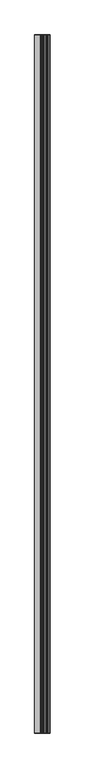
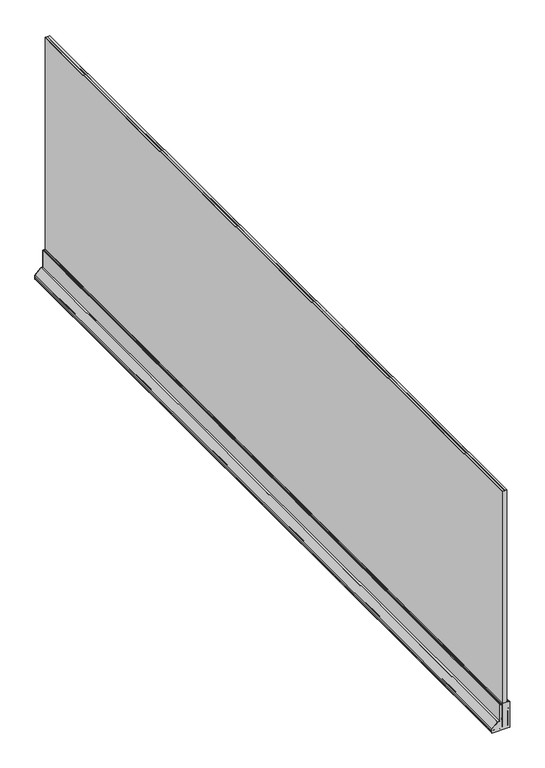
"""IFC4 building model written with IfcOpenShell, lengths in millimetres: railing geometry, Glass Rail EXL-12481 h=1100mm."""

import ifcopenshell
import ifcopenshell.guid

model = None  # the IFC model being written
_history = None  # IfcOwnerHistory: only IFC2X3 demands one
_inside = {}  # id of a spatial element -> (the spatial element, [elements in it])
_under = {}  # id of a project, library or spatial element -> (it, [spatial elements below it])
_declared = {}  # id of a project -> (the project, [libraries it declares])
_typed = {}  # id of a type object -> (the type object, [elements of that type])
_made_of = {}  # id of a material, layer set ... -> (it, [elements and type objects made of it])


def new_model(schema):
    """Start an empty IFC model of exactly this schema.

    Asked for "IFC4X3", IfcOpenShell would pick the latest addendum, in which some entities
    have other attributes; the version numbers below select the first issue.
    IFC2X3 requires an IfcOwnerHistory on every rooted entity: one is made here for all.
    """
    global model, _history
    if schema == "IFC4X3":
        model = ifcopenshell.file(schema_version=(4, 3, 0, 0))
    else:
        model = ifcopenshell.file(schema=schema)
    _inside.clear()
    _under.clear()
    _declared.clear()
    _typed.clear()
    _made_of.clear()
    _history = None
    if model.schema == "IFC2X3":
        org = make("IfcOrganization", Name="unknown")
        user = make(
            "IfcPersonAndOrganization",
            ThePerson=make("IfcPerson", FamilyName="unknown"),
            TheOrganization=org,
        )
        app = make(
            "IfcApplication",
            ApplicationDeveloper=org,
            Version="unknown",
            ApplicationFullName="unknown",
            ApplicationIdentifier="unknown",
        )
        _history = make(
            "IfcOwnerHistory",
            OwningUser=user,
            OwningApplication=app,
            ChangeAction="ADDED",
            CreationDate=0,
        )
    return model


def make(cls, **values):
    """One entity of the class cls with the attributes given. An attribute that is None is left unset."""
    return model.create_entity(
        cls, **{name: value for name, value in values.items() if value is not None}
    )


def rooted(cls, **values):
    """An entity with a GlobalId (a new one), such as an element, a storey or a relation."""
    return make(cls, GlobalId=ifcopenshell.guid.new(), OwnerHistory=_history, **values)


def si_unit(unit_type, name, prefix=None):
    """IfcSIUnit, for example si_unit("LENGTHUNIT", "METRE", prefix="MILLI")."""
    return make("IfcSIUnit", UnitType=unit_type, Prefix=prefix, Name=name)


def assignment(units):
    """IfcUnitAssignment: the units of a project."""
    return None if units is None else make("IfcUnitAssignment", Units=units)


def point(xyz):
    """IfcCartesianPoint."""
    return None if xyz is None else make("IfcCartesianPoint", Coordinates=xyz)


def direction(xyz):
    """IfcDirection."""
    return None if xyz is None else make("IfcDirection", DirectionRatios=xyz)


def frame(location, z_axis=None, x_axis=None):
    """IfcAxis2Placement3D, a coordinate frame: its origin and axes. An axis left out is left unset."""
    return make(
        "IfcAxis2Placement3D",
        Location=point(location),
        Axis=direction(z_axis),
        RefDirection=direction(x_axis),
    )


def frame_2d(location, x_axis=None):
    """IfcAxis2Placement2D, a coordinate frame in the plane: its origin and x axis."""
    return make(
        "IfcAxis2Placement2D", Location=point(location), RefDirection=direction(x_axis)
    )


def origin():
    """The frame at (0, 0, 0) with its axes left unset."""
    return frame((0.0, 0.0, 0.0))


def place(relative_to, where):
    """IfcLocalPlacement: puts the frame where relative to a parent placement (None: the world)."""
    return make(
        "IfcLocalPlacement", PlacementRelTo=relative_to, RelativePlacement=where
    )


def context(
    kind, dimensions, precision=None, world=None, true_north=None, identifier=None
):
    """IfcGeometricRepresentationContext, for example the 3D "Model" context."""
    return make(
        "IfcGeometricRepresentationContext",
        ContextIdentifier=identifier,
        ContextType=kind,
        CoordinateSpaceDimension=dimensions,
        Precision=precision,
        WorldCoordinateSystem=world,
        TrueNorth=true_north,
    )


def project(units=None, contexts=None):
    """IfcProject with its units and contexts."""
    return rooted(
        "IfcProject",
        Name="project",
        RepresentationContexts=contexts,
        UnitsInContext=assignment(units),
    )


def spatial(cls, under=None, at=None, **own):
    """A site, building, storey or space (cls), placed at a placement, below another one or the project."""
    s = rooted(cls, ObjectPlacement=at, **own)
    if under is not None:
        _under.setdefault(under.id(), (under, []))[1].append(s)
    return s


def polyline(points):
    """IfcPolyline through the points."""
    return make("IfcPolyline", Points=[point(p) for p in points])


def circle_curve(where, radius):
    """IfcCircle in the frame where."""
    return make("IfcCircle", Position=where, Radius=radius)


def trimmed(basis, trim1, trim2, sense, master):
    """IfcTrimmedCurve: the piece of a basis curve between two trims."""
    return make(
        "IfcTrimmedCurve",
        BasisCurve=basis,
        Trim1=trim1,
        Trim2=trim2,
        SenseAgreement=sense,
        MasterRepresentation=master,
    )


def segment(curve, same_sense, transition):
    """IfcCompositeCurveSegment."""
    return make(
        "IfcCompositeCurveSegment",
        Transition=transition,
        SameSense=same_sense,
        ParentCurve=curve,
    )


def composite_curve(segments, self_intersect=None):
    """IfcCompositeCurve: segments joined end to end."""
    return make("IfcCompositeCurve", Segments=segments, SelfIntersect=self_intersect)


def outline(outer, holes=None, kind="AREA"):
    """IfcArbitraryClosedProfileDef: a profile drawn as a closed curve; with holes, ...WithVoids."""
    if holes is None:
        return make("IfcArbitraryClosedProfileDef", ProfileType=kind, OuterCurve=outer)
    return make(
        "IfcArbitraryProfileDefWithVoids",
        ProfileType=kind,
        OuterCurve=outer,
        InnerCurves=holes,
    )


def extrude(swept, where, along, depth):
    """IfcExtrudedAreaSolid: the profile swept, set in the frame where, extruded along a direction by depth."""
    return make(
        "IfcExtrudedAreaSolid",
        SweptArea=swept,
        Position=where,
        ExtrudedDirection=direction(along),
        Depth=depth,
    )


def shape(context_of_items, identifier, shape_type, items):
    """IfcShapeRepresentation: the items that make up one representation, for example the "Body"."""
    return make(
        "IfcShapeRepresentation",
        ContextOfItems=context_of_items,
        RepresentationIdentifier=identifier,
        RepresentationType=shape_type,
        Items=items,
    )


def source(mapping_origin, context_of_items, identifier, shape_type, items):
    """IfcRepresentationMap: a shape defined once, which mapped items show again and again."""
    return make(
        "IfcRepresentationMap",
        MappingOrigin=mapping_origin,
        MappedRepresentation=shape(context_of_items, identifier, shape_type, items),
    )


def transform(
    local_origin,
    x_axis=None,
    y_axis=None,
    z_axis=None,
    scale=None,
    scale2=None,
    scale3=None,
    uniform=True,
):
    """IfcCartesianTransformationOperator3D, or its non-uniform kind. x_axis, y_axis, z_axis: its Axis1, 2, 3."""
    if uniform:
        return make(
            "IfcCartesianTransformationOperator3D",
            Axis1=direction(x_axis),
            Axis2=direction(y_axis),
            LocalOrigin=point(local_origin),
            Scale=scale,
            Axis3=direction(z_axis),
        )
    return make(
        "IfcCartesianTransformationOperator3DnonUniform",
        Axis1=direction(x_axis),
        Axis2=direction(y_axis),
        LocalOrigin=point(local_origin),
        Scale=scale,
        Axis3=direction(z_axis),
        Scale2=scale2,
        Scale3=scale3,
    )


def mapped(mapping_source, mapping_target):
    """IfcMappedItem: shows the shape of a source again, moved by a transform."""
    return make(
        "IfcMappedItem", MappingSource=mapping_source, MappingTarget=mapping_target
    )


def made_of(thing, what):
    """Note that an element or type object is made of a material, layer set ...; save() writes the relation."""
    if what is not None:
        _made_of.setdefault(what.id(), (what, []))[1].append(thing)
    return thing


def element(
    cls,
    number,
    at=None,
    inside=None,
    cuts=None,
    type_object=None,
    material=None,
    context=None,
    identifier="Body",
    shape_type=None,
    held_by="IfcProductDefinitionShape",
    body=None,
    shapes=None,
    **own,
):
    """One element of the class cls, such as IfcWall. Its Tag is "e" and its number.

    at: its placement. inside: the storey or other place that contains it. cuts: it is an
    opening in that element (IfcRelVoidsElement). A single representation is given by context,
    identifier, shape_type and body (its items); several are given by shapes. held_by: the class
    of the entity that holds the representations. save() writes the other relations.
    """
    e = rooted(cls, Tag="e%d" % number, ObjectPlacement=at, **own)
    if body is not None:
        shapes = [shape(context, identifier, shape_type, body)]
    if shapes is not None:
        e.Representation = make(held_by, Representations=shapes)
    if inside is not None:
        _inside.setdefault(inside.id(), (inside, []))[1].append(e)
    if cuts is not None:
        rooted(
            "IfcRelVoidsElement", RelatingBuildingElement=cuts, RelatedOpeningElement=e
        )
    if type_object is not None:
        _typed.setdefault(type_object.id(), (type_object, []))[1].append(e)
    return made_of(e, material)


def aggregate(whole, parts):
    """IfcRelAggregates: a whole, such as a stair, and the parts it consists of."""
    return rooted("IfcRelAggregates", RelatingObject=whole, RelatedObjects=parts)


def save(model, path):
    """Write the relations noted so far, then the file.

    IfcRelAggregates (storeys below a building ...), IfcRelContainedInSpatialStructure (elements
    in a storey), IfcRelDefinesByType, IfcRelAssociatesMaterial and IfcRelDeclares: one each for
    every whole, place, type object, material and project.
    """
    for whole, parts in _under.values():
        aggregate(whole, parts)
    for where, things in _inside.values():
        rooted(
            "IfcRelContainedInSpatialStructure",
            RelatedElements=things,
            RelatingStructure=where,
        )
    for kind, things in _typed.values():
        rooted("IfcRelDefinesByType", RelatedObjects=things, RelatingType=kind)
    for what, things in _made_of.values():
        rooted("IfcRelAssociatesMaterial", RelatedObjects=things, RelatingMaterial=what)
    for by, libraries in _declared.values():
        rooted("IfcRelDeclares", RelatingContext=by, RelatedDefinitions=libraries)
    model.write(path)


def railing_5e96fa47(model_context):
    return source(origin(), model_context, "Body", "SweptSolid", [
        extrude(outline(composite_curve([segment(trimmed(circle_curve(frame_2d((4319.5, 26234.4337784)), 0.5), [point((4320.0, 26234.4337784))], [point((4319.0, 26234.4337784))], False, "CARTESIAN"), True, "CONTINUOUS"), segment(polyline([(4319.0, 26234.4337784), (4300.0, 26234.4337784), (4299.4226497, 26235.4337784), (4276.5, 26231.6337784), (4211.0, 26231.6337784)]), True, "CONTINUOUS"), segment(trimmed(circle_curve(frame_2d((4211.0, 26230.6337784)), 1.0), [point((4211.0, 26231.6337784))], [point((4210.0, 26230.6337784))], True, "CARTESIAN"), True, "CONTINUOUS"), segment(polyline([(4210.0, 26230.6337784), (4210.0, 26207.6337784)]), True, "CONTINUOUS"), segment(trimmed(circle_curve(frame_2d((4211.0, 26207.6337784)), 1.0), [point((4210.0, 26207.6337784))], [point((4211.0, 26206.6337784))], True, "CARTESIAN"), True, "CONTINUOUS"), segment(polyline([(4211.0, 26206.6337784), (4230.0, 26206.6337784), (4319.0, 26202.6337784)]), True, "CONTINUOUS"), segment(trimmed(circle_curve(frame_2d((4319.5, 26202.6337784)), 0.5), [point((4319.0, 26202.6337784))], [point((4320.0, 26202.6337784))], False, "CARTESIAN"), True, "CONTINUOUS"), segment(polyline([(4320.0, 26202.6337784), (4320.0, 26199.1337784)]), True, "CONTINUOUS"), segment(trimmed(circle_curve(frame_2d((4319.0, 26199.1337784)), 1.0), [point((4320.0, 26199.1337784))], [point((4319.0, 26198.1337784))], False, "CARTESIAN"), True, "CONTINUOUS"), segment(polyline([(4319.0, 26198.1337784), (4240.6529004, 26198.1337784), (4237.6579257, 26195.1388036), (4233.415285, 26195.1388036), (4235.5567063, 26197.280225)]), True, "CONTINUOUS"), segment(trimmed(circle_curve(frame_2d((4235.2031529, 26197.6337784)), 0.5), [point((4235.5567063, 26197.280225))], [point((4235.2031529, 26198.1337784))], True, "CARTESIAN"), True, "CONTINUOUS"), segment(polyline([(4235.2031529, 26198.1337784), (4209.5, 26198.1337784)]), True, "CONTINUOUS"), segment(trimmed(circle_curve(frame_2d((4209.5, 26197.1337784)), 1.0), [point((4209.5, 26198.1337784))], [point((4208.5, 26197.1337784))], True, "CARTESIAN"), True, "CONTINUOUS"), segment(polyline([(4208.5, 26197.1337784), (4208.5, 26171.4306254)]), True, "CONTINUOUS"), segment(trimmed(circle_curve(frame_2d((4209.0, 26171.4306254)), 0.5), [point((4208.5, 26171.4306254))], [point((4209.3535534, 26171.0770721))], True, "CARTESIAN"), True, "CONTINUOUS"), segment(polyline([(4209.3535534, 26171.0770721), (4211.4949747, 26173.2184934), (4211.4949747, 26168.9758527), (4208.5, 26165.980878), (4208.5, 26163.1337784), (4201.0, 26163.1337784)]), True, "CONTINUOUS"), segment(trimmed(circle_curve(frame_2d((4201.0, 26164.1337784)), 1.0), [point((4201.0, 26163.1337784))], [point((4200.0, 26164.1337784))], False, "CARTESIAN"), True, "CONTINUOUS"), segment(polyline([(4200.0, 26164.1337784), (4200.0, 26239.1337784)]), True, "CONTINUOUS"), segment(trimmed(circle_curve(frame_2d((4201.0, 26239.1337784)), 1.0), [point((4200.0, 26239.1337784))], [point((4201.0, 26240.1337784))], False, "CARTESIAN"), True, "CONTINUOUS"), segment(polyline([(4201.0, 26240.1337784), (4319.0, 26240.1337784)]), True, "CONTINUOUS"), segment(trimmed(circle_curve(frame_2d((4319.0, 26239.1337784)), 1.0), [point((4319.0, 26240.1337784))], [point((4320.0, 26239.1337784))], False, "CARTESIAN"), True, "CONTINUOUS"), segment(polyline([(4320.0, 26239.1337784), (4320.0, 26234.4337784)]), True, "CONTINUOUS")], self_intersect=False)), frame((0.0, 15111.715447, 0.0), z_axis=(0.0, 1.0, 0.0), x_axis=(0.0, 0.0, 1.0)), (0.0, 0.0, 1.0), 3455.2052188),
        extrude(outline(composite_curve([segment(trimmed(circle_curve(frame_2d((4232.3277129, 26196.5092184)), 0.3), [point((4232.1155808, 26196.2970864))], [point((4232.4053586, 26196.7989962))], False, "CARTESIAN"), True, "CONTINUOUS"), segment(polyline([(4232.4053586, 26196.7989962), (4233.2557449, 26196.5711358), (4240.6715729, 26189.1553079), (4241.9, 26190.383735), (4241.9, 26197.9209933), (4243.5, 26197.9209933), (4243.5, 26189.7209933), (4216.912785, 26163.1337784), (4208.712785, 26163.1337784), (4208.712785, 26164.7337784), (4216.2500433, 26164.7337784), (4217.4784705, 26165.9622055), (4210.0626425, 26173.3780334), (4209.8347822, 26174.2284198)]), True, "CONTINUOUS"), segment(trimmed(circle_curve(frame_2d((4210.1245599, 26174.3060655)), 0.3), [point((4209.8347822, 26174.2284198))], [point((4210.336692, 26174.5181975))], False, "CARTESIAN"), True, "CONTINUOUS"), segment(polyline([(4210.336692, 26174.5181975), (4218.1855772, 26166.6693123), (4239.9644661, 26188.4482011), (4232.1155808, 26196.2970864)]), True, "CONTINUOUS")], self_intersect=False)), frame((0.0, 15111.715447, 0.0), z_axis=(0.0, 1.0, 0.0), x_axis=(0.0, 0.0, 1.0)), (0.0, 0.0, 1.0), 3455.2052188),
        extrude(outline(composite_curve([segment(trimmed(circle_curve(frame_2d((4319.85, 26234.3639875)), 0.5), [point((4319.85, 26233.8639875))], [point((4320.35, 26234.3639875))], True, "CARTESIAN"), True, "CONTINUOUS"), segment(polyline([(4320.35, 26234.3639875), (4320.239686, 26235.6142133)]), True, "CONTINUOUS"), segment(trimmed(circle_curve(frame_2d((4320.8216792, 26235.6655657)), 0.5842544), [point((4320.239686, 26235.6142133))], [point((4321.4009367, 26235.741814))], False, "CARTESIAN"), True, "CONTINUOUS"), segment(trimmed(circle_curve(frame_2d((4396.1944554, 26245.5869645)), 75.4386998), [point((4321.4009367, 26235.741814))], [point((4322.6518365, 26228.7798044))], True, "CARTESIAN"), True, "CONTINUOUS"), segment(trimmed(circle_curve(frame_2d((4330.9804663, 26231.3268888)), 8.7094037), [point((4322.6518365, 26228.7798044))], [point((4323.0514631, 26227.7234709))], True, "CARTESIAN"), True, "CONTINUOUS"), segment(trimmed(circle_curve(frame_2d((4322.7475881, 26227.5895446)), 0.3320787), [point((4323.0514631, 26227.7234709))], [point((4322.5140821, 26227.3534277))], False, "CARTESIAN"), True, "CONTINUOUS"), segment(polyline([(4322.5140821, 26227.3534277), (4321.6016227, 26228.5337784), (4213.0, 26228.5337784), (4213.0, 26209.5337784)]), True, "CONTINUOUS"), segment(trimmed(circle_curve(frame_2d((4212.0, 26209.5337784)), 1.0), [point((4213.0, 26209.5337784))], [point((4212.0, 26208.5337784))], False, "CARTESIAN"), True, "CONTINUOUS"), segment(polyline([(4212.0, 26208.5337784), (4211.0, 26208.5337784)]), True, "CONTINUOUS"), segment(trimmed(circle_curve(frame_2d((4211.0, 26209.5337784)), 1.0), [point((4211.0, 26208.5337784))], [point((4210.0, 26209.5337784))], False, "CARTESIAN"), True, "CONTINUOUS"), segment(polyline([(4210.0, 26209.5337784), (4210.0, 26230.6337784)]), True, "CONTINUOUS"), segment(trimmed(circle_curve(frame_2d((4211.0, 26230.6337784)), 1.0), [point((4210.0, 26230.6337784))], [point((4211.0, 26231.6337784))], False, "CARTESIAN"), True, "CONTINUOUS"), segment(polyline([(4211.0, 26231.6337784), (4276.5, 26231.6337784), (4299.4226497, 26235.4337784), (4300.0, 26234.4337784), (4318.4302091, 26234.4337784), (4319.0, 26233.8639875), (4319.85, 26233.8639875)]), True, "CONTINUOUS")], self_intersect=False)), frame((0.0, 15111.715447, 0.0), z_axis=(0.0, 1.0, 0.0), x_axis=(0.0, 0.0, 1.0)), (0.0, 0.0, 1.0), 3455.2052188),
        extrude(outline(composite_curve([segment(trimmed(circle_curve(frame_2d((4308.5372817, 26206.0293969)), 1.5), [point((4307.0372817, 26206.0293969))], [point((4308.5372817, 26207.5293969))], False, "CARTESIAN"), True, "CONTINUOUS"), segment(polyline([(4308.5372817, 26207.5293969), (4310.9416639, 26207.5293969), (4312.0608288, 26208.4518843), (4313.2849649, 26207.4428729), (4314.4750423, 26208.6329503), (4315.6821491, 26207.4258436), (4316.8892559, 26208.6329503), (4318.0963627, 26207.4258436), (4319.2972925, 26208.6267734), (4320.227594, 26207.7592902)]), True, "CONTINUOUS"), segment(trimmed(circle_curve(frame_2d((4320.7517158, 26208.6135889)), 1.0022624), [point((4320.227594, 26207.7592902))], [point((4321.4577771, 26207.902247))], True, "CARTESIAN"), True, "CONTINUOUS"), segment(polyline([(4321.4577771, 26207.902247), (4322.3140821, 26209.0099568)]), True, "CONTINUOUS"), segment(trimmed(circle_curve(frame_2d((4322.5475881, 26208.7738399)), 0.3320787), [point((4322.3140821, 26209.0099568))], [point((4322.8514631, 26208.6399135))], False, "CARTESIAN"), True, "CONTINUOUS"), segment(trimmed(circle_curve(frame_2d((4330.7804663, 26205.0364956)), 8.7094037), [point((4322.8514631, 26208.6399135))], [point((4322.4518365, 26207.58358))], True, "CARTESIAN"), True, "CONTINUOUS"), segment(trimmed(circle_curve(frame_2d((4379.3319631, 26192.7651297)), 58.7786974), [point((4322.4518365, 26207.58358))], [point((4321.1877806, 26201.3784514))], True, "CARTESIAN"), True, "CONTINUOUS"), segment(trimmed(circle_curve(frame_2d((4320.6118425, 26201.4637693)), 0.5822232), [point((4321.1877806, 26201.3784514))], [point((4320.0318726, 26201.5149432))], False, "CARTESIAN"), True, "CONTINUOUS"), segment(polyline([(4320.0318726, 26201.5149432), (4320.15, 26202.8537207)]), True, "CONTINUOUS"), segment(trimmed(circle_curve(frame_2d((4319.65, 26202.8537207)), 0.5), [point((4320.15, 26202.8537207))], [point((4319.65, 26203.3537207))], True, "CARTESIAN"), True, "CONTINUOUS"), segment(polyline([(4319.65, 26203.3537207), (4318.8630833, 26203.3537207), (4318.2932925, 26202.7839298), (4310.3051746, 26202.7839298), (4307.0372817, 26204.1287199), (4307.0372817, 26206.0293969)]), True, "CONTINUOUS")], self_intersect=False)), frame((0.0, 15111.715447, 0.0), z_axis=(0.0, 1.0, 0.0), x_axis=(0.0, 0.0, 1.0)), (0.0, 0.0, 1.0), 3455.2052188),
        extrude(outline(composite_curve([segment(trimmed(circle_curve(frame_2d((4289.5, 26207.8220278)), 0.5), [point((4289.5, 26208.3220278))], [point((4290.0, 26207.8220278))], False, "CARTESIAN"), True, "CONTINUOUS"), segment(polyline([(4290.0, 26207.8220278), (4290.0, 26204.4601258)]), True, "CONTINUOUS"), segment(trimmed(circle_curve(frame_2d((4289.5, 26204.4601258)), 0.5), [point((4290.0, 26204.4601258))], [point((4289.4775508, 26203.96063))], False, "CARTESIAN"), True, "CONTINUOUS"), segment(polyline([(4289.4775508, 26203.96063), (4224.9997789, 26206.8585074), (4224.9997789, 26207.8220278)]), True, "CONTINUOUS"), segment(trimmed(circle_curve(frame_2d((4225.4997789, 26207.8220278)), 0.5), [point((4224.9997789, 26207.8220278))], [point((4225.4997789, 26208.3220278))], False, "CARTESIAN"), True, "CONTINUOUS"), segment(polyline([(4225.4997789, 26208.3220278), (4289.5, 26208.3220278)]), True, "CONTINUOUS")], self_intersect=False)), frame((0.0, 15111.715447, 0.0), z_axis=(0.0, 1.0, 0.0), x_axis=(0.0, 0.0, 1.0)), (0.0, 0.0, 1.0), 3455.2052188),
        extrude(outline(polyline([(4213.890625, 26207.7837784), (4213.0, 26208.6744034), (4213.0, 26216.7475284), (4213.890625, 26217.6381534), (4213.890625, 26218.6894034), (4213.0, 26219.5800284), (4213.0, 26227.6531534), (4213.890625, 26228.5437784), (5299.109375, 26228.5437784), (5300.0, 26227.6531534), (5300.0, 26219.5800284), (5299.109375, 26218.6894034), (5299.109375, 26217.6381534), (5300.0, 26216.7475284), (5300.0, 26208.6744034), (5299.109375, 26207.7837784), (4213.890625, 26207.7837784)])), frame((0.0, 15111.715447, 0.0), z_axis=(0.0, 1.0, 0.0), x_axis=(0.0, 0.0, 1.0)), (0.0, 0.0, 1.0), 3455.2052188),
        extrude(outline(polyline([(5300.0, 26219.5500284), (5300.0, 26216.7175284), (5299.109375, 26217.6081534), (5299.109375, 26218.6594034), (5300.0, 26219.5500284)])), frame((0.0, 15111.715447, 0.0), z_axis=(0.0, 1.0, 0.0), x_axis=(0.0, 0.0, 1.0)), (0.0, 0.0, 1.0), 3455.2052188),
        extrude(outline(polyline([(4213.8909545, 26207.7837784), (4213.0, 26208.6747329), (4213.0, 26227.6528238), (4213.8909545, 26228.5437784), (5299.1090455, 26228.5437784), (5300.0, 26227.6528238), (5300.0, 26208.6747329), (5299.1090455, 26207.7837784), (4213.8909545, 26207.7837784)])), frame((0.0, 16476.4415576, 0.0), z_axis=(0.0, 1.0, 0.0), x_axis=(0.0, 0.0, 1.0)), (0.0, 0.0, 1.0), 0.9582165),
        extrude(outline(composite_curve([segment(polyline([(4243.5, 26198.1337784), (4243.5, 26189.7237784), (4216.91, 26163.1337784), (4200.0, 26163.1337784), (4200.0, 26239.1337784)]), True, "CONTINUOUS"), segment(trimmed(circle_curve(frame_2d((4201.0, 26239.1337784)), 1.0), [point((4200.0, 26239.1337784))], [point((4201.0, 26240.1337784))], False, "CARTESIAN"), True, "CONTINUOUS"), segment(polyline([(4201.0, 26240.1337784), (4319.0, 26240.1337784)]), True, "CONTINUOUS"), segment(trimmed(circle_curve(frame_2d((4319.0, 26239.1337784)), 1.0), [point((4319.0, 26240.1337784))], [point((4320.0, 26239.1337784))], False, "CARTESIAN"), True, "CONTINUOUS"), segment(polyline([(4320.0, 26239.1337784), (4320.0, 26199.1337784)]), True, "CONTINUOUS"), segment(trimmed(circle_curve(frame_2d((4319.0, 26199.1337784)), 1.0), [point((4320.0, 26199.1337784))], [point((4319.0, 26198.1337784))], False, "CARTESIAN"), True, "CONTINUOUS"), segment(polyline([(4319.0, 26198.1337784), (4243.5, 26198.1337784)]), True, "CONTINUOUS")], self_intersect=False)), frame((0.0, 15110.715447, 0.0), z_axis=(0.0, 1.0, 0.0), x_axis=(0.0, 0.0, 1.0)), (0.0, 0.0, 1.0), 1.0),
        extrude(outline(composite_curve([segment(polyline([(4243.5, 26198.1337784), (4243.5, 26189.7237784), (4216.91, 26163.1337784), (4200.0, 26163.1337784), (4200.0, 26239.1337784)]), True, "CONTINUOUS"), segment(trimmed(circle_curve(frame_2d((4201.0, 26239.1337784)), 1.0), [point((4200.0, 26239.1337784))], [point((4201.0, 26240.1337784))], False, "CARTESIAN"), True, "CONTINUOUS"), segment(polyline([(4201.0, 26240.1337784), (4319.0, 26240.1337784)]), True, "CONTINUOUS"), segment(trimmed(circle_curve(frame_2d((4319.0, 26239.1337784)), 1.0), [point((4319.0, 26240.1337784))], [point((4320.0, 26239.1337784))], False, "CARTESIAN"), True, "CONTINUOUS"), segment(polyline([(4320.0, 26239.1337784), (4320.0, 26199.1337784)]), True, "CONTINUOUS"), segment(trimmed(circle_curve(frame_2d((4319.0, 26199.1337784)), 1.0), [point((4320.0, 26199.1337784))], [point((4319.0, 26198.1337784))], False, "CARTESIAN"), True, "CONTINUOUS"), segment(polyline([(4319.0, 26198.1337784), (4243.5, 26198.1337784)]), True, "CONTINUOUS")], self_intersect=False)), frame((0.0, 18566.9206658, 0.0), z_axis=(0.0, 1.0, 0.0), x_axis=(0.0, 0.0, 1.0)), (0.0, 0.0, 1.0), 1.0),
    ])


if __name__ == "__main__":
    model = new_model("IFC4")
    model_context = context("Model", 3, world=origin())
    ifc_project = project(units=[si_unit("LENGTHUNIT", "METRE", prefix="MILLI")], contexts=[model_context])
    site = spatial("IfcSite", under=ifc_project)
    building = spatial("IfcBuilding", under=site)
    placement = place(None, origin())
    railing_shape = railing_5e96fa47(model_context)
    element("IfcRailing", 1, ObjectType="Glass Rail EXL-12481 h=1100mm", at=placement, inside=building, context=model_context, shape_type="MappedRepresentation", body=[
        mapped(railing_shape, transform((0.0, 0.0, 0.0), x_axis=(1.0, 0.0, 0.0), y_axis=(0.0, 1.0, 0.0), z_axis=(0.0, 0.0, 1.0))),
    ])
    save(model, "model.ifc")
